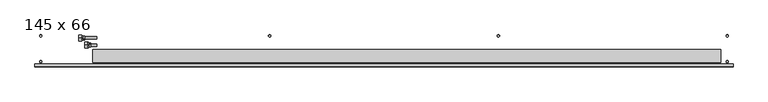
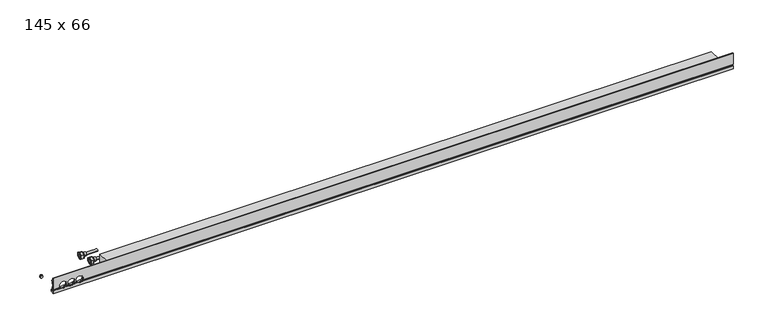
"""IFC4 building model written with IfcOpenShell, lengths in millimetres: proxy geometry, Mohlenhof_Внутрипольный конвектор_QSKM : 145 x 66."""

from ifc_helpers import new_model, si_unit, point, frame, frame_2d, origin, place, context, project, spatial, polyline, circle_curve, ellipse_curve, trimmed, segment, composite_curve, outline, extrude, source, transform, mapped, element, save
from ifc_brep_helpers import plane_surface, cylinder_surface, revolved_surface, advanced_brep


def proxy_145_x_66_77f280cb(model_context):
    return source(origin(), model_context, "Body", "SolidModel", [
        extrude(outline(composite_curve([segment(trimmed(circle_curve(frame_2d((-450.0, -223.5)), 4.5), [point((-454.5, -223.5))], [point((-445.5, -223.5))], False, "CARTESIAN"), True, "CONTINUOUS"), segment(trimmed(circle_curve(frame_2d((-450.0, -223.5)), 4.5), [point((-445.5, -223.5))], [point((-454.5, -223.5))], False, "CARTESIAN"), True, "CONTINUOUS")], self_intersect=False)), frame((0.0, 0.0, -79.0), z_axis=(0.0, 0.0, 1.0), x_axis=(1.0, 0.0, 0.0)), (0.0, 0.0, 1.0), 7.0),
        extrude(outline(composite_curve([segment(trimmed(circle_curve(frame_2d((-450.0, -223.5)), 4.0), [point((-454.0, -223.5))], [point((-446.0, -223.5))], False, "CARTESIAN"), True, "CONTINUOUS"), segment(trimmed(circle_curve(frame_2d((-450.0, -223.5)), 4.0), [point((-446.0, -223.5))], [point((-454.0, -223.5))], False, "CARTESIAN"), True, "CONTINUOUS")], self_intersect=False)), frame((0.0, 0.0, -72.0), z_axis=(0.0, 0.0, 1.0), x_axis=(1.0, 0.0, 0.0)), (0.0, 0.0, 1.0), 1.5),
        extrude(outline(composite_curve([segment(trimmed(circle_curve(frame_2d((450.0, -223.5)), 4.5), [point((445.5, -223.5))], [point((454.5, -223.5))], False, "CARTESIAN"), True, "CONTINUOUS"), segment(trimmed(circle_curve(frame_2d((450.0, -223.5)), 4.5), [point((454.5, -223.5))], [point((445.5, -223.5))], False, "CARTESIAN"), True, "CONTINUOUS")], self_intersect=False)), frame((0.0, 0.0, -79.0), z_axis=(0.0, 0.0, 1.0), x_axis=(1.0, 0.0, 0.0)), (0.0, 0.0, 1.0), 7.0),
        extrude(outline(composite_curve([segment(trimmed(circle_curve(frame_2d((450.0, -223.5)), 4.0), [point((446.0, -223.5))], [point((454.0, -223.5))], False, "CARTESIAN"), True, "CONTINUOUS"), segment(trimmed(circle_curve(frame_2d((450.0, -223.5)), 4.0), [point((454.0, -223.5))], [point((446.0, -223.5))], False, "CARTESIAN"), True, "CONTINUOUS")], self_intersect=False)), frame((0.0, 0.0, -72.0), z_axis=(0.0, 0.0, 1.0), x_axis=(1.0, 0.0, 0.0)), (0.0, 0.0, 1.0), 1.5),
        extrude(outline(composite_curve([segment(trimmed(circle_curve(frame_2d((-450.0, -121.5)), 4.5), [point((-454.5, -121.5))], [point((-445.5, -121.5))], False, "CARTESIAN"), True, "CONTINUOUS"), segment(trimmed(circle_curve(frame_2d((-450.0, -121.5)), 4.5), [point((-445.5, -121.5))], [point((-454.5, -121.5))], False, "CARTESIAN"), True, "CONTINUOUS")], self_intersect=False)), frame((0.0, 0.0, -79.0), z_axis=(0.0, 0.0, 1.0), x_axis=(1.0, 0.0, 0.0)), (0.0, 0.0, 1.0), 7.0),
        extrude(outline(composite_curve([segment(trimmed(circle_curve(frame_2d((-450.0, -121.5)), 4.0), [point((-454.0, -121.5))], [point((-446.0, -121.5))], False, "CARTESIAN"), True, "CONTINUOUS"), segment(trimmed(circle_curve(frame_2d((-450.0, -121.5)), 4.0), [point((-446.0, -121.5))], [point((-454.0, -121.5))], False, "CARTESIAN"), True, "CONTINUOUS")], self_intersect=False)), frame((0.0, 0.0, -72.0), z_axis=(0.0, 0.0, 1.0), x_axis=(1.0, 0.0, 0.0)), (0.0, 0.0, 1.0), 1.5),
        extrude(outline(composite_curve([segment(trimmed(circle_curve(frame_2d((450.0, -121.5)), 4.5), [point((445.5, -121.5))], [point((454.5, -121.5))], False, "CARTESIAN"), True, "CONTINUOUS"), segment(trimmed(circle_curve(frame_2d((450.0, -121.5)), 4.5), [point((454.5, -121.5))], [point((445.5, -121.5))], False, "CARTESIAN"), True, "CONTINUOUS")], self_intersect=False)), frame((0.0, 0.0, -79.0), z_axis=(0.0, 0.0, 1.0), x_axis=(1.0, 0.0, 0.0)), (0.0, 0.0, 1.0), 7.0),
        extrude(outline(composite_curve([segment(trimmed(circle_curve(frame_2d((450.0, -121.5)), 4.0), [point((446.0, -121.5))], [point((454.0, -121.5))], False, "CARTESIAN"), True, "CONTINUOUS"), segment(trimmed(circle_curve(frame_2d((450.0, -121.5)), 4.0), [point((454.0, -121.5))], [point((446.0, -121.5))], False, "CARTESIAN"), True, "CONTINUOUS")], self_intersect=False)), frame((0.0, 0.0, -72.0), z_axis=(0.0, 0.0, 1.0), x_axis=(1.0, 0.0, 0.0)), (0.0, 0.0, 1.0), 1.5),
        advanced_brep(
        [(-1165.0, -158.0, -47.5), (-1165.0, -146.0, -47.5), (-1165.0, -170.0, -47.5), (-1152.5, -165.5, -47.5), (-1152.5, -150.5, -47.5), (-1152.5, -158.0, -47.5), (-1160.0, -165.5, -47.5), (-1160.0, -150.5, -47.5)],
        [
            (0, 1),
            (1, 2, circle_curve(frame((-1165.0, -158.0, -47.5), z_axis=(-1.0, 0.0, 0.0), x_axis=(0.0, 1.0, 0.0)), 12.0)),
            (2, 0),
            (2, 1, circle_curve(frame((-1165.0, -158.0, -47.5), z_axis=(-1.0, 0.0, 0.0), x_axis=(0.0, 1.0, 0.0)), 12.0)),
            (3, 4, circle_curve(frame((-1152.5, -158.0, -47.5), z_axis=(1.0, 0.0, 0.0), x_axis=(0.0, 1.0, 0.0)), 7.5)),
            (4, 5),
            (5, 3),
            (4, 3, circle_curve(frame((-1152.5, -158.0, -47.5), z_axis=(1.0, 0.0, 0.0), x_axis=(0.0, 1.0, 0.0)), 7.5)),
            (6, 7, circle_curve(frame((-1160.0, -158.0, -47.5), z_axis=(1.0, 0.0, 0.0), x_axis=(0.0, 1.0, 0.0)), 7.5)),
            (7, 4),
            (3, 6),
            (7, 6, circle_curve(frame((-1160.0, -158.0, -47.5), z_axis=(1.0, 0.0, 0.0), x_axis=(0.0, 1.0, 0.0)), 7.5)),
            (1, 7),
            (6, 2),
        ],
        [
            plane_surface(frame((-1165.0, -158.0, -47.5), z_axis=(-1.0, 0.0, 0.0), x_axis=(0.0, 1.0, 0.0))),
            plane_surface(frame((-1152.5, -158.0, -47.5), z_axis=(1.0, 0.0, 0.0), x_axis=(0.0, 1.0, 0.0))),
            cylinder_surface(frame((-1165.0, -158.0, -47.5), z_axis=(-1.0, 0.0, 0.0), x_axis=(0.0, 1.0, 0.0)), 7.5),
            revolved_surface(polyline([(-1160.0, -150.5, -47.5), (-1165.0, -146.0, -47.5)]), (-1165.0, -158.0, -47.5), (-1.0, 0.0, 0.0)),
        ],
        [
            (0, [[1, 2, 3]]),
            (0, [[-3, 4, -1]]),
            (1, [[5, 6, 7]]),
            (1, [[8, -7, -6]]),
            (2, [[9, 10, -5, 11]]),
            (2, [[12, -11, -8, -10]]),
            (3, [[-2, 13, -9, 14]]),
            (3, [[-4, -14, -12, -13]]),
        ],
    ),
        extrude(outline(polyline([(-158.0, -33.6435935), (-146.0, -40.5717968), (-146.0, -54.4282032), (-158.0, -61.3564065), (-170.0, -54.4282032), (-170.0, -40.5717968), (-158.0, -33.6435935)]), holes=[composite_curve([segment(trimmed(circle_curve(frame_2d((-158.0, -47.5)), 8.5), [point((-149.5, -47.5))], [point((-166.5, -47.5))], True, "CARTESIAN"), True, "CONTINUOUS"), segment(trimmed(circle_curve(frame_2d((-158.0, -47.5)), 8.5), [point((-166.5, -47.5))], [point((-149.5, -47.5))], True, "CARTESIAN"), True, "CONTINUOUS")], self_intersect=False)]), frame((-1176.0, 0.0, 0.0), z_axis=(1.0, 0.0, 0.0), x_axis=(0.0, 1.0, 0.0)), (0.0, 0.0, 1.0), 11.0),
        advanced_brep(
        [(-1189.0, -130.0, -34.5), (-1189.0, -118.0, -34.5), (-1189.0, -142.0, -34.5), (-1176.5, -137.5, -34.5), (-1176.5, -122.5, -34.5), (-1176.5, -130.0, -34.5), (-1184.0, -137.5, -34.5), (-1184.0, -122.5, -34.5)],
        [
            (0, 1),
            (1, 2, circle_curve(frame((-1189.0, -130.0, -34.5), z_axis=(-1.0, 0.0, 0.0), x_axis=(0.0, 1.0, 0.0)), 12.0)),
            (2, 0),
            (2, 1, circle_curve(frame((-1189.0, -130.0, -34.5), z_axis=(-1.0, 0.0, 0.0), x_axis=(0.0, 1.0, 0.0)), 12.0)),
            (3, 4, circle_curve(frame((-1176.5, -130.0, -34.5), z_axis=(1.0, 0.0, 0.0), x_axis=(0.0, 1.0, 0.0)), 7.5)),
            (4, 5),
            (5, 3),
            (4, 3, circle_curve(frame((-1176.5, -130.0, -34.5), z_axis=(1.0, 0.0, 0.0), x_axis=(0.0, 1.0, 0.0)), 7.5)),
            (6, 7, circle_curve(frame((-1184.0, -130.0, -34.5), z_axis=(1.0, 0.0, 0.0), x_axis=(0.0, 1.0, 0.0)), 7.5)),
            (7, 4),
            (3, 6),
            (7, 6, circle_curve(frame((-1184.0, -130.0, -34.5), z_axis=(1.0, 0.0, 0.0), x_axis=(0.0, 1.0, 0.0)), 7.5)),
            (1, 7),
            (6, 2),
        ],
        [
            plane_surface(frame((-1189.0, -130.0, -34.5), z_axis=(-1.0, 0.0, 0.0), x_axis=(0.0, 1.0, 0.0))),
            plane_surface(frame((-1176.5, -130.0, -34.5), z_axis=(1.0, 0.0, 0.0), x_axis=(0.0, 1.0, 0.0))),
            cylinder_surface(frame((-1189.0, -130.0, -34.5), z_axis=(-1.0, 0.0, 0.0), x_axis=(0.0, 1.0, 0.0)), 7.5),
            revolved_surface(polyline([(-1184.0, -122.5, -34.5), (-1189.0, -118.0, -34.5)]), (-1189.0, -130.0, -34.5), (-1.0, 0.0, 0.0)),
        ],
        [
            (0, [[1, 2, 3]]),
            (0, [[-3, 4, -1]]),
            (1, [[5, 6, 7]]),
            (1, [[8, -7, -6]]),
            (2, [[9, 10, -5, 11]]),
            (2, [[12, -11, -8, -10]]),
            (3, [[-2, 13, -9, 14]]),
            (3, [[-4, -14, -12, -13]]),
        ],
    ),
        extrude(outline(polyline([(-130.0, -20.6435935), (-118.0, -27.5717968), (-118.0, -41.4282032), (-130.0, -48.3564065), (-142.0, -41.4282032), (-142.0, -27.5717968), (-130.0, -20.6435935)]), holes=[composite_curve([segment(trimmed(circle_curve(frame_2d((-130.0, -34.5)), 8.5), [point((-121.5, -34.5))], [point((-138.5, -34.5))], True, "CARTESIAN"), True, "CONTINUOUS"), segment(trimmed(circle_curve(frame_2d((-130.0, -34.5)), 8.5), [point((-138.5, -34.5))], [point((-121.5, -34.5))], True, "CARTESIAN"), True, "CONTINUOUS")], self_intersect=False)]), frame((-1200.0, 0.0, 0.0), z_axis=(1.0, 0.0, 0.0), x_axis=(0.0, 1.0, 0.0)), (0.0, 0.0, 1.0), 11.0),
        extrude(outline(composite_curve([segment(trimmed(circle_curve(frame_2d((-1350.0, -223.5)), 4.5), [point((-1354.5, -223.5))], [point((-1345.5, -223.5))], False, "CARTESIAN"), True, "CONTINUOUS"), segment(trimmed(circle_curve(frame_2d((-1350.0, -223.5)), 4.5), [point((-1345.5, -223.5))], [point((-1354.5, -223.5))], False, "CARTESIAN"), True, "CONTINUOUS")], self_intersect=False)), frame((0.0, 0.0, -79.0), z_axis=(0.0, 0.0, 1.0), x_axis=(1.0, 0.0, 0.0)), (0.0, 0.0, 1.0), 7.0),
        extrude(outline(composite_curve([segment(trimmed(circle_curve(frame_2d((-1350.0, -223.5)), 4.0), [point((-1354.0, -223.5))], [point((-1346.0, -223.5))], False, "CARTESIAN"), True, "CONTINUOUS"), segment(trimmed(circle_curve(frame_2d((-1350.0, -223.5)), 4.0), [point((-1346.0, -223.5))], [point((-1354.0, -223.5))], False, "CARTESIAN"), True, "CONTINUOUS")], self_intersect=False)), frame((0.0, 0.0, -72.0), z_axis=(0.0, 0.0, 1.0), x_axis=(1.0, 0.0, 0.0)), (0.0, 0.0, 1.0), 1.5),
        extrude(outline(composite_curve([segment(trimmed(circle_curve(frame_2d((-1350.0, -121.5)), 4.5), [point((-1354.5, -121.5))], [point((-1345.5, -121.5))], False, "CARTESIAN"), True, "CONTINUOUS"), segment(trimmed(circle_curve(frame_2d((-1350.0, -121.5)), 4.5), [point((-1345.5, -121.5))], [point((-1354.5, -121.5))], False, "CARTESIAN"), True, "CONTINUOUS")], self_intersect=False)), frame((0.0, 0.0, -79.0), z_axis=(0.0, 0.0, 1.0), x_axis=(1.0, 0.0, 0.0)), (0.0, 0.0, 1.0), 7.0),
        extrude(outline(composite_curve([segment(trimmed(circle_curve(frame_2d((-1350.0, -121.5)), 4.0), [point((-1354.0, -121.5))], [point((-1346.0, -121.5))], False, "CARTESIAN"), True, "CONTINUOUS"), segment(trimmed(circle_curve(frame_2d((-1350.0, -121.5)), 4.0), [point((-1346.0, -121.5))], [point((-1354.0, -121.5))], False, "CARTESIAN"), True, "CONTINUOUS")], self_intersect=False)), frame((0.0, 0.0, -72.0), z_axis=(0.0, 0.0, 1.0), x_axis=(1.0, 0.0, 0.0)), (0.0, 0.0, 1.0), 1.5),
        extrude(outline(composite_curve([segment(trimmed(circle_curve(frame_2d((1350.0, -223.5)), 4.5), [point((1345.5, -223.5))], [point((1354.5, -223.5))], False, "CARTESIAN"), True, "CONTINUOUS"), segment(trimmed(circle_curve(frame_2d((1350.0, -223.5)), 4.5), [point((1354.5, -223.5))], [point((1345.5, -223.5))], False, "CARTESIAN"), True, "CONTINUOUS")], self_intersect=False)), frame((0.0, 0.0, -79.0), z_axis=(0.0, 0.0, 1.0), x_axis=(1.0, 0.0, 0.0)), (0.0, 0.0, 1.0), 7.0),
        extrude(outline(composite_curve([segment(trimmed(circle_curve(frame_2d((1350.0, -223.5)), 4.0), [point((1346.0, -223.5))], [point((1354.0, -223.5))], False, "CARTESIAN"), True, "CONTINUOUS"), segment(trimmed(circle_curve(frame_2d((1350.0, -223.5)), 4.0), [point((1354.0, -223.5))], [point((1346.0, -223.5))], False, "CARTESIAN"), True, "CONTINUOUS")], self_intersect=False)), frame((0.0, 0.0, -72.0), z_axis=(0.0, 0.0, 1.0), x_axis=(1.0, 0.0, 0.0)), (0.0, 0.0, 1.0), 1.5),
        extrude(outline(composite_curve([segment(trimmed(circle_curve(frame_2d((1350.0, -121.5)), 4.5), [point((1345.5, -121.5))], [point((1354.5, -121.5))], False, "CARTESIAN"), True, "CONTINUOUS"), segment(trimmed(circle_curve(frame_2d((1350.0, -121.5)), 4.5), [point((1354.5, -121.5))], [point((1345.5, -121.5))], False, "CARTESIAN"), True, "CONTINUOUS")], self_intersect=False)), frame((0.0, 0.0, -79.0), z_axis=(0.0, 0.0, 1.0), x_axis=(1.0, 0.0, 0.0)), (0.0, 0.0, 1.0), 7.0),
        extrude(outline(composite_curve([segment(trimmed(circle_curve(frame_2d((1350.0, -121.5)), 4.0), [point((1346.0, -121.5))], [point((1354.0, -121.5))], False, "CARTESIAN"), True, "CONTINUOUS"), segment(trimmed(circle_curve(frame_2d((1350.0, -121.5)), 4.0), [point((1354.0, -121.5))], [point((1346.0, -121.5))], False, "CARTESIAN"), True, "CONTINUOUS")], self_intersect=False)), frame((0.0, 0.0, -72.0), z_axis=(0.0, 0.0, 1.0), x_axis=(1.0, 0.0, 0.0)), (0.0, 0.0, 1.0), 1.5),
        extrude(outline(polyline([(1325.0, -175.87), (1325.0, -227.18), (-1145.0, -227.18), (-1145.0, -175.87), (1325.0, -175.87)])), frame((0.0, 0.0, -62.5), z_axis=(0.0, 0.0, 1.0), x_axis=(1.0, 0.0, 0.0)), (0.0, 0.0, 1.0), 43.62),
        extrude(outline(composite_curve([segment(trimmed(circle_curve(frame_2d((-158.0, -47.5)), 5.0), [point((-163.0, -47.5))], [point((-153.0, -47.5))], False, "CARTESIAN"), True, "CONTINUOUS"), segment(trimmed(circle_curve(frame_2d((-158.0, -47.5)), 5.0), [point((-153.0, -47.5))], [point((-163.0, -47.5))], False, "CARTESIAN"), True, "CONTINUOUS")], self_intersect=False)), frame((-1176.0, 0.0, 0.0), z_axis=(1.0, 0.0, 0.0), x_axis=(0.0, 1.0, 0.0)), (0.0, 0.0, 1.0), 46.0),
        extrude(outline(composite_curve([segment(trimmed(circle_curve(frame_2d((-130.0, -34.5)), 5.0), [point((-135.0, -34.5))], [point((-125.0, -34.5))], False, "CARTESIAN"), True, "CONTINUOUS"), segment(trimmed(circle_curve(frame_2d((-130.0, -34.5)), 5.0), [point((-125.0, -34.5))], [point((-135.0, -34.5))], False, "CARTESIAN"), True, "CONTINUOUS")], self_intersect=False)), frame((-1200.0, 0.0, 0.0), z_axis=(1.0, 0.0, 0.0), x_axis=(0.0, 1.0, 0.0)), (0.0, 0.0, 1.0), 70.0),
        advanced_brep(
        [(1373.0, -245.0, -48.5473602), (1373.0, -243.5, -49.2468216), (1373.0, -242.5, -49.2468216), (1373.0, -242.5, -46.0008038), (1373.0, -240.0, -46.0008038), (1373.0, -240.0, -56.5008038), (1373.0, -242.5, -56.5008038), (1373.0, -242.5, -53.2468216), (1373.0, -243.5, -53.2468216), (1373.0, -245.0, -53.9462831), (1373.0, -245.0, -66.5), (1373.0, -241.0, -66.5), (1373.0, -241.0, -65.2), (1373.0, -243.0, -65.2), (1373.0, -243.0, -62.5), (1373.0, -232.0, -62.5), (1373.0, -232.0, -54.9172677), (1373.0, -233.4172677, -53.5), (1373.0, -237.0, -53.5), (1373.0, -237.0, -45.91), (1373.0, -239.0, -43.91), (1373.0, -239.0, -39.5), (1373.0, -240.0, -39.5), (1373.0, -240.0, -43.5), (1373.0, -242.4956439, -43.5), (1373.0, -242.4956439, -23.0), (1373.0, -240.0, -23.0), (1373.0, -240.0, -27.0), (1373.0, -239.0, -27.0), (1373.0, -239.0, -17.0), (1373.0, -233.3956439, -17.0), (1373.0, -233.3956439, -15.0), (1373.0, -243.4, -15.0), (1373.0, -243.4, 0.0), (1373.0, -245.0, 0.0), (-1373.0, -245.0, -48.5473602), (-1373.0, -245.0, 0.0), (-1373.0, -243.4, 0.0), (-1373.0, -243.4, -15.0), (-1373.0, -233.3956439, -15.0), (-1373.0, -233.3956439, -17.0), (-1373.0, -239.0, -17.0), (-1373.0, -239.0, -27.0), (-1373.0, -240.0, -27.0), (-1373.0, -240.0, -23.0), (-1373.0, -242.4956439, -23.0), (-1373.0, -242.4956439, -43.5), (-1373.0, -240.0, -43.5), (-1373.0, -240.0, -39.5), (-1373.0, -239.0, -39.5), (-1373.0, -239.0, -43.91), (-1373.0, -237.0, -45.91), (-1373.0, -237.0, -53.5), (-1373.0, -233.4172677, -53.5), (-1373.0, -232.0, -54.9172677), (-1373.0, -232.0, -62.5), (-1373.0, -243.0, -62.5), (-1373.0, -243.0, -65.2), (-1373.0, -241.0, -65.2), (-1373.0, -241.0, -66.5), (-1373.0, -245.0, -66.5), (-1373.0, -245.0, -53.9462831), (-1373.0, -243.5, -53.2468216), (-1373.0, -242.5, -53.2468216), (-1373.0, -242.5, -56.5008038), (-1373.0, -240.0, -56.5008038), (-1373.0, -240.0, -46.0008038), (-1373.0, -242.5, -46.0008038), (-1373.0, -242.5, -49.2468216), (-1373.0, -243.5, -49.2468216), (-1253.7585985, -245.0, -48.5473602), (-1254.155283, -243.5, -49.2468216), (-1345.844717, -243.5, -49.2468216), (-1346.2414015, -245.0, -48.5473602), (-1313.2414015, -245.0, -48.5473602), (-1319.7585985, -245.0, -48.5473602), (-1320.155283, -243.5, -49.2468216), (-1312.844717, -243.5, -49.2468216), (-1280.2414015, -245.0, -48.5473602), (-1286.7585985, -245.0, -48.5473602), (-1287.155283, -243.5, -49.2468216), (-1279.844717, -243.5, -49.2468216), (-1254.155283, -242.5, -49.2468216), (-1345.844717, -242.5, -49.2468216), (-1320.155283, -242.5, -49.2468216), (-1312.844717, -242.5, -49.2468216), (-1287.155283, -242.5, -49.2468216), (-1279.844717, -242.5, -49.2468216), (-1252.6911648, -242.5, -46.0008038), (-1347.3088352, -242.5, -46.0008038), (-1318.6911648, -242.5, -46.0008038), (-1314.3088352, -242.5, -46.0008038), (-1285.6911648, -242.5, -46.0008038), (-1281.3088352, -242.5, -46.0008038), (-1252.6911648, -240.0, -46.0008038), (-1347.3088352, -240.0, -46.0008038), (-1318.6911648, -240.0, -46.0008038), (-1314.3088352, -240.0, -46.0008038), (-1285.6911648, -240.0, -46.0008038), (-1281.3088352, -240.0, -46.0008038), (-1342.328032, -242.5, -53.2468216), (-1323.671968, -242.5, -53.2468216), (-1309.328032, -242.5, -53.2468216), (-1290.671968, -242.5, -53.2468216), (-1276.328032, -242.5, -53.2468216), (-1257.671968, -242.5, -53.2468216), (-1257.671968, -243.5, -53.2468216), (-1342.328032, -243.5, -53.2468216), (-1323.671968, -243.5, -53.2468216), (-1309.328032, -243.5, -53.2468216), (-1290.671968, -243.5, -53.2468216), (-1276.328032, -243.5, -53.2468216), (-1258.6280208, -245.0, -53.9462831), (-1341.3719792, -245.0, -53.9462831), (-1324.6280208, -245.0, -53.9462831), (-1308.3719792, -245.0, -53.9462831), (-1291.6280208, -245.0, -53.9462831), (-1275.3719792, -245.0, -53.9462831), (-1339.7064841, -232.0, -54.9172677), (-1326.2935159, -232.0, -54.9172677), (-1306.7064841, -232.0, -54.9172677), (-1293.2935159, -232.0, -54.9172677), (-1273.7064841, -232.0, -54.9172677), (-1260.2935159, -232.0, -54.9172677), (-1258.0, -233.4172677, -53.5), (-1342.0, -233.4172677, -53.5), (-1324.0, -233.4172677, -53.5), (-1309.0, -233.4172677, -53.5), (-1291.0, -233.4172677, -53.5), (-1276.0, -233.4172677, -53.5), (-1258.0, -237.0, -53.5), (-1342.0, -237.0, -53.5), (-1324.0, -237.0, -53.5), (-1309.0, -237.0, -53.5), (-1291.0, -237.0, -53.5), (-1276.0, -237.0, -53.5), (-1252.6629187, -237.0, -45.91), (-1347.3370813, -237.0, -45.91), (-1318.6629187, -237.0, -45.91), (-1314.3370813, -237.0, -45.91), (-1285.6629187, -237.0, -45.91), (-1281.3370813, -237.0, -45.91), (-1252.1948691, -239.0, -43.91), (-1347.8051309, -239.0, -43.91), (-1318.1948691, -239.0, -43.91), (-1314.8051309, -239.0, -43.91), (-1285.1948691, -239.0, -43.91), (-1281.8051309, -239.0, -43.91), (-1252.0, -239.0, -41.5), (-1252.1339313, -239.0, -39.5), (-1347.8660687, -239.0, -39.5), (-1348.0, -239.0, -41.5), (-1318.0, -239.0, -41.5), (-1318.1339313, -239.0, -39.5), (-1314.8660687, -239.0, -39.5), (-1315.0, -239.0, -41.5), (-1285.0, -239.0, -41.5), (-1285.1339313, -239.0, -39.5), (-1281.8660687, -239.0, -39.5), (-1282.0, -239.0, -41.5), (-1252.1339313, -240.0, -39.5), (-1347.8660687, -240.0, -39.5), (-1318.1339313, -240.0, -39.5), (-1314.8660687, -240.0, -39.5), (-1285.1339313, -240.0, -39.5), (-1281.8660687, -240.0, -39.5), (-1252.0, -240.0, -41.5), (-1252.1339313, -240.0, -43.5), (-1347.8660687, -240.0, -43.5), (-1348.0, -240.0, -41.5), (-1318.0, -240.0, -41.5), (-1318.1339313, -240.0, -43.5), (-1314.8660687, -240.0, -43.5), (-1315.0, -240.0, -41.5), (-1285.0, -240.0, -41.5), (-1285.1339313, -240.0, -43.5), (-1281.8660687, -240.0, -43.5), (-1282.0, -240.0, -41.5), (-1252.1339313, -242.4956439, -43.5), (-1347.8660687, -242.4956439, -43.5), (-1318.1339313, -242.4956439, -43.5), (-1314.8660687, -242.4956439, -43.5), (-1285.1339313, -242.4956439, -43.5), (-1281.8660687, -242.4956439, -43.5), (-1252.0, -242.4956439, -41.5), (-1282.0, -242.4956439, -41.5), (-1285.0, -242.4956439, -41.5), (-1315.0, -242.4956439, -41.5), (-1318.0, -242.4956439, -41.5), (-1348.0, -242.4956439, -41.5), (-1336.8405729, -240.0, -27.0), (-1329.1594271, -240.0, -27.0), (-1303.8405729, -240.0, -27.0), (-1296.1594271, -240.0, -27.0), (-1270.8405729, -240.0, -27.0), (-1263.1594271, -240.0, -27.0), (-1263.1594271, -239.0, -27.0), (-1336.8405729, -239.0, -27.0), (-1329.1594271, -239.0, -27.0), (-1303.8405729, -239.0, -27.0), (-1296.1594271, -239.0, -27.0), (-1270.8405729, -239.0, -27.0), (-1348.0, -245.0, -41.5), (-1318.0, -245.0, -41.5), (-1315.0, -245.0, -41.5), (-1285.0, -245.0, -41.5), (-1282.0, -245.0, -41.5), (-1252.0, -245.0, -41.5)],
        [
            (0, 1),
            (1, 2),
            (2, 3),
            (3, 4),
            (4, 5),
            (5, 6),
            (6, 7),
            (7, 8),
            (8, 9),
            (9, 10),
            (10, 11),
            (11, 12),
            (12, 13),
            (13, 14),
            (14, 15),
            (15, 16),
            (16, 17),
            (17, 18),
            (18, 19),
            (19, 20),
            (20, 21),
            (21, 22),
            (22, 23),
            (23, 24),
            (24, 25),
            (25, 26),
            (26, 27),
            (27, 28),
            (28, 29),
            (29, 30),
            (30, 31),
            (31, 32),
            (32, 33),
            (33, 34),
            (34, 0),
            (35, 36),
            (36, 37),
            (37, 38),
            (38, 39),
            (39, 40),
            (40, 41),
            (41, 42),
            (42, 43),
            (43, 44),
            (44, 45),
            (45, 46),
            (46, 47),
            (47, 48),
            (48, 49),
            (49, 50),
            (50, 51),
            (51, 52),
            (52, 53),
            (53, 54),
            (54, 55),
            (55, 56),
            (56, 57),
            (57, 58),
            (58, 59),
            (59, 60),
            (60, 61),
            (61, 62),
            (62, 63),
            (63, 64),
            (64, 65),
            (65, 66),
            (66, 67),
            (67, 68),
            (68, 69),
            (69, 35),
            (0, 70),
            (70, 71, ellipse_curve(frame((-1267.0, -260.1131126, -41.5), z_axis=(0.0, 0.42261826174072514, 0.9063077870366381), x_axis=(0.0, -0.9063077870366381, 0.42261826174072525)), 35.4930237, 15.0)),
            (71, 1),
            (69, 72),
            (72, 73, ellipse_curve(frame((-1333.0, -260.1131126, -41.5), z_axis=(0.0, 0.42261826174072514, 0.9063077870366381), x_axis=(0.0, -0.9063077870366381, 0.42261826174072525)), 35.4930237, 15.0)),
            (73, 35),
            (74, 75),
            (75, 76, ellipse_curve(frame((-1333.0, -260.1131126, -41.5), z_axis=(0.0, 0.42261826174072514, 0.9063077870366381), x_axis=(0.0, -0.9063077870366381, 0.42261826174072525)), 35.4930237, 15.0)),
            (76, 77),
            (77, 74, ellipse_curve(frame((-1300.0, -260.1131126, -41.5), z_axis=(0.0, 0.42261826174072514, 0.9063077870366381), x_axis=(0.0, -0.9063077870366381, 0.42261826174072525)), 35.4930237, 15.0)),
            (78, 79),
            (79, 80, ellipse_curve(frame((-1300.0, -260.1131126, -41.5), z_axis=(0.0, 0.42261826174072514, 0.9063077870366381), x_axis=(0.0, -0.9063077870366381, 0.42261826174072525)), 35.4930237, 15.0)),
            (80, 81),
            (81, 78, ellipse_curve(frame((-1267.0, -260.1131126, -41.5), z_axis=(0.0, 0.42261826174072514, 0.9063077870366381), x_axis=(0.0, -0.9063077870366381, 0.42261826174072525)), 35.4930237, 15.0)),
            (71, 82),
            (82, 2),
            (68, 83),
            (83, 72),
            (76, 84),
            (84, 85),
            (85, 77),
            (80, 86),
            (86, 87),
            (87, 81),
            (82, 88, circle_curve(frame((-1267.0, -242.5, -41.5), z_axis=(0.0, -1.0, 0.0), x_axis=(1.0, 0.0, 0.0)), 15.0)),
            (88, 3),
            (67, 89),
            (89, 83, circle_curve(frame((-1333.0, -242.5, -41.5), z_axis=(0.0, -1.0, 0.0), x_axis=(1.0, 0.0, 0.0)), 15.0)),
            (84, 90, circle_curve(frame((-1333.0, -242.5, -41.5), z_axis=(0.0, -1.0, 0.0), x_axis=(1.0, 0.0, 0.0)), 15.0)),
            (90, 91),
            (91, 85, circle_curve(frame((-1300.0, -242.5, -41.5), z_axis=(0.0, -1.0, 0.0), x_axis=(1.0, 0.0, 0.0)), 15.0)),
            (86, 92, circle_curve(frame((-1300.0, -242.5, -41.5), z_axis=(0.0, -1.0, 0.0), x_axis=(1.0, 0.0, 0.0)), 15.0)),
            (92, 93),
            (93, 87, circle_curve(frame((-1267.0, -242.5, -41.5), z_axis=(0.0, -1.0, 0.0), x_axis=(1.0, 0.0, 0.0)), 15.0)),
            (88, 94),
            (94, 4),
            (66, 95),
            (95, 89),
            (90, 96),
            (96, 97),
            (97, 91),
            (92, 98),
            (98, 99),
            (99, 93),
            (94, 99, circle_curve(frame((-1267.0, -240.0, -41.5), z_axis=(0.0, 1.0, 0.0), x_axis=(1.0, 0.0, 0.0)), 15.0)),
            (98, 97, circle_curve(frame((-1300.0, -240.0, -41.5), z_axis=(0.0, 1.0, 0.0), x_axis=(1.0, 0.0, 0.0)), 15.0)),
            (96, 95, circle_curve(frame((-1333.0, -240.0, -41.5), z_axis=(0.0, 1.0, 0.0), x_axis=(1.0, 0.0, 0.0)), 15.0)),
            (65, 5),
            (64, 6),
            (63, 100),
            (100, 101, circle_curve(frame((-1333.0, -242.5, -41.5), z_axis=(0.0, -1.0, 0.0), x_axis=(1.0, 0.0, 0.0)), 15.0)),
            (101, 102),
            (102, 103, circle_curve(frame((-1300.0, -242.5, -41.5), z_axis=(0.0, -1.0, 0.0), x_axis=(1.0, 0.0, 0.0)), 15.0)),
            (103, 104),
            (104, 105, circle_curve(frame((-1267.0, -242.5, -41.5), z_axis=(0.0, -1.0, 0.0), x_axis=(1.0, 0.0, 0.0)), 15.0)),
            (105, 7),
            (105, 106),
            (106, 8),
            (62, 107),
            (107, 100),
            (101, 108),
            (108, 109),
            (109, 102),
            (103, 110),
            (110, 111),
            (111, 104),
            (106, 112, ellipse_curve(frame((-1267.0, -218.3088597, -41.5), z_axis=(0.0, 0.42261826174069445, -0.9063077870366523), x_axis=(0.0, -0.9063077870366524, -0.42261826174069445)), 35.4930237, 15.0)),
            (112, 9),
            (61, 113),
            (113, 107, ellipse_curve(frame((-1333.0, -218.3088597, -41.5), z_axis=(0.0, 0.42261826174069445, -0.9063077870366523), x_axis=(0.0, -0.9063077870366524, -0.42261826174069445)), 35.4930237, 15.0)),
            (108, 114, ellipse_curve(frame((-1333.0, -218.3088597, -41.5), z_axis=(0.0, 0.42261826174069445, -0.9063077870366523), x_axis=(0.0, -0.9063077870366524, -0.42261826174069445)), 35.4930237, 15.0)),
            (114, 115),
            (115, 109, ellipse_curve(frame((-1300.0, -218.3088597, -41.5), z_axis=(0.0, 0.42261826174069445, -0.9063077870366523), x_axis=(0.0, -0.9063077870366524, -0.42261826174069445)), 35.4930237, 15.0)),
            (110, 116, ellipse_curve(frame((-1300.0, -218.3088597, -41.5), z_axis=(0.0, 0.42261826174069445, -0.9063077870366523), x_axis=(0.0, -0.9063077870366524, -0.42261826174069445)), 35.4930237, 15.0)),
            (116, 117),
            (117, 111, ellipse_curve(frame((-1267.0, -218.3088597, -41.5), z_axis=(0.0, 0.42261826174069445, -0.9063077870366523), x_axis=(0.0, -0.9063077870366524, -0.42261826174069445)), 35.4930237, 15.0)),
            (112, 117, circle_curve(frame((-1267.0, -245.0, -41.5), z_axis=(0.0, 1.0, 0.0), x_axis=(1.0, 0.0, 0.0)), 15.0)),
            (116, 115, circle_curve(frame((-1300.0, -245.0, -41.5), z_axis=(0.0, 1.0, 0.0), x_axis=(1.0, 0.0, 0.0)), 15.0)),
            (114, 113, circle_curve(frame((-1333.0, -245.0, -41.5), z_axis=(0.0, 1.0, 0.0), x_axis=(1.0, 0.0, 0.0)), 15.0)),
            (60, 10),
            (59, 11),
            (58, 12),
            (57, 13),
            (56, 14),
            (55, 15),
            (54, 118),
            (118, 119, circle_curve(frame((-1333.0, -232.0, -41.5), z_axis=(0.0, -1.0, 0.0), x_axis=(1.0, 0.0, 0.0)), 15.0)),
            (119, 120),
            (120, 121, circle_curve(frame((-1300.0, -232.0, -41.5), z_axis=(0.0, -1.0, 0.0), x_axis=(1.0, 0.0, 0.0)), 15.0)),
            (121, 122),
            (122, 123, circle_curve(frame((-1267.0, -232.0, -41.5), z_axis=(0.0, -1.0, 0.0), x_axis=(1.0, 0.0, 0.0)), 15.0)),
            (123, 16),
            (123, 124, ellipse_curve(frame((-1267.0, -245.4172677, -41.5), z_axis=(0.0, -0.7071067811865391, -0.707106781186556), x_axis=(0.0, -0.7071067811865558, 0.7071067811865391)), 21.2132034, 15.0)),
            (124, 17),
            (53, 125),
            (125, 118, ellipse_curve(frame((-1333.0, -245.4172677, -41.5), z_axis=(0.0, -0.7071067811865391, -0.707106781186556), x_axis=(0.0, -0.7071067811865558, 0.7071067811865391)), 21.2132034, 15.0)),
            (119, 126, ellipse_curve(frame((-1333.0, -245.4172677, -41.5), z_axis=(0.0, -0.7071067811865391, -0.707106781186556), x_axis=(0.0, -0.7071067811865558, 0.7071067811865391)), 21.2132034, 15.0)),
            (126, 127),
            (127, 120, ellipse_curve(frame((-1300.0, -245.4172677, -41.5), z_axis=(0.0, -0.7071067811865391, -0.707106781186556), x_axis=(0.0, -0.7071067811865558, 0.7071067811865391)), 21.2132034, 15.0)),
            (121, 128, ellipse_curve(frame((-1300.0, -245.4172677, -41.5), z_axis=(0.0, -0.7071067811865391, -0.707106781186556), x_axis=(0.0, -0.7071067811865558, 0.7071067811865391)), 21.2132034, 15.0)),
            (128, 129),
            (129, 122, ellipse_curve(frame((-1267.0, -245.4172677, -41.5), z_axis=(0.0, -0.7071067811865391, -0.707106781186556), x_axis=(0.0, -0.7071067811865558, 0.7071067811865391)), 21.2132034, 15.0)),
            (124, 130),
            (130, 18),
            (52, 131),
            (131, 125),
            (126, 132),
            (132, 133),
            (133, 127),
            (128, 134),
            (134, 135),
            (135, 129),
            (130, 136, circle_curve(frame((-1267.0, -237.0, -41.5), z_axis=(0.0, -1.0, 0.0), x_axis=(1.0, 0.0, 0.0)), 15.0)),
            (136, 19),
            (51, 137),
            (137, 131, circle_curve(frame((-1333.0, -237.0, -41.5), z_axis=(0.0, -1.0, 0.0), x_axis=(1.0, 0.0, 0.0)), 15.0)),
            (132, 138, circle_curve(frame((-1333.0, -237.0, -41.5), z_axis=(0.0, -1.0, 0.0), x_axis=(1.0, 0.0, 0.0)), 15.0)),
            (138, 139),
            (139, 133, circle_curve(frame((-1300.0, -237.0, -41.5), z_axis=(0.0, -1.0, 0.0), x_axis=(1.0, 0.0, 0.0)), 15.0)),
            (134, 140, circle_curve(frame((-1300.0, -237.0, -41.5), z_axis=(0.0, -1.0, 0.0), x_axis=(1.0, 0.0, 0.0)), 15.0)),
            (140, 141),
            (141, 135, circle_curve(frame((-1267.0, -237.0, -41.5), z_axis=(0.0, -1.0, 0.0), x_axis=(1.0, 0.0, 0.0)), 15.0)),
            (136, 142, ellipse_curve(frame((-1267.0, -241.41, -41.5), z_axis=(0.0, -0.7071067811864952, -0.7071067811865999), x_axis=(0.0, -0.7071067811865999, 0.7071067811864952)), 21.2132034, 15.0)),
            (142, 20),
            (50, 143),
            (143, 137, ellipse_curve(frame((-1333.0, -241.41, -41.5), z_axis=(0.0, -0.7071067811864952, -0.7071067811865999), x_axis=(0.0, -0.7071067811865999, 0.7071067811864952)), 21.2132034, 15.0)),
            (138, 144, ellipse_curve(frame((-1333.0, -241.41, -41.5), z_axis=(0.0, -0.7071067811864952, -0.7071067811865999), x_axis=(0.0, -0.7071067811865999, 0.7071067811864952)), 21.2132034, 15.0)),
            (144, 145),
            (145, 139, ellipse_curve(frame((-1300.0, -241.41, -41.5), z_axis=(0.0, -0.7071067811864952, -0.7071067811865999), x_axis=(0.0, -0.7071067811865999, 0.7071067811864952)), 21.2132034, 15.0)),
            (140, 146, ellipse_curve(frame((-1300.0, -241.41, -41.5), z_axis=(0.0, -0.7071067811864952, -0.7071067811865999), x_axis=(0.0, -0.7071067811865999, 0.7071067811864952)), 21.2132034, 15.0)),
            (146, 147),
            (147, 141, ellipse_curve(frame((-1267.0, -241.41, -41.5), z_axis=(0.0, -0.7071067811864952, -0.7071067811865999), x_axis=(0.0, -0.7071067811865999, 0.7071067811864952)), 21.2132034, 15.0)),
            (142, 148, circle_curve(frame((-1267.0, -239.0, -41.5), z_axis=(0.0, -1.0, 0.0), x_axis=(1.0, 0.0, 0.0)), 15.0)),
            (148, 149, circle_curve(frame((-1267.0, -239.0, -41.5), z_axis=(0.0, -1.0, 0.0), x_axis=(1.0, 0.0, 0.0)), 15.0)),
            (149, 21),
            (49, 150),
            (150, 151, circle_curve(frame((-1333.0, -239.0, -41.5), z_axis=(0.0, -1.0, 0.0), x_axis=(1.0, 0.0, 0.0)), 15.0)),
            (151, 143, circle_curve(frame((-1333.0, -239.0, -41.5), z_axis=(0.0, -1.0, 0.0), x_axis=(1.0, 0.0, 0.0)), 15.0)),
            (144, 152, circle_curve(frame((-1333.0, -239.0, -41.5), z_axis=(0.0, -1.0, 0.0), x_axis=(1.0, 0.0, 0.0)), 15.0)),
            (152, 153, circle_curve(frame((-1333.0, -239.0, -41.5), z_axis=(0.0, -1.0, 0.0), x_axis=(1.0, 0.0, 0.0)), 15.0)),
            (153, 154),
            (154, 155, circle_curve(frame((-1300.0, -239.0, -41.5), z_axis=(0.0, -1.0, 0.0), x_axis=(1.0, 0.0, 0.0)), 15.0)),
            (155, 145, circle_curve(frame((-1300.0, -239.0, -41.5), z_axis=(0.0, -1.0, 0.0), x_axis=(1.0, 0.0, 0.0)), 15.0)),
            (146, 156, circle_curve(frame((-1300.0, -239.0, -41.5), z_axis=(0.0, -1.0, 0.0), x_axis=(1.0, 0.0, 0.0)), 15.0)),
            (156, 157, circle_curve(frame((-1300.0, -239.0, -41.5), z_axis=(0.0, -1.0, 0.0), x_axis=(1.0, 0.0, 0.0)), 15.0)),
            (157, 158),
            (158, 159, circle_curve(frame((-1267.0, -239.0, -41.5), z_axis=(0.0, -1.0, 0.0), x_axis=(1.0, 0.0, 0.0)), 15.0)),
            (159, 147, circle_curve(frame((-1267.0, -239.0, -41.5), z_axis=(0.0, -1.0, 0.0), x_axis=(1.0, 0.0, 0.0)), 15.0)),
            (149, 160),
            (160, 22),
            (48, 161),
            (161, 150),
            (153, 162),
            (162, 163),
            (163, 154),
            (157, 164),
            (164, 165),
            (165, 158),
            (160, 166, circle_curve(frame((-1267.0, -240.0, -41.5), z_axis=(0.0, 1.0, 0.0), x_axis=(1.0, 0.0, 0.0)), 15.0)),
            (166, 167, circle_curve(frame((-1267.0, -240.0, -41.5), z_axis=(0.0, 1.0, 0.0), x_axis=(1.0, 0.0, 0.0)), 15.0)),
            (167, 23),
            (47, 168),
            (168, 169, circle_curve(frame((-1333.0, -240.0, -41.5), z_axis=(0.0, 1.0, 0.0), x_axis=(1.0, 0.0, 0.0)), 15.0)),
            (169, 161, circle_curve(frame((-1333.0, -240.0, -41.5), z_axis=(0.0, 1.0, 0.0), x_axis=(1.0, 0.0, 0.0)), 15.0)),
            (162, 170, circle_curve(frame((-1333.0, -240.0, -41.5), z_axis=(0.0, 1.0, 0.0), x_axis=(1.0, 0.0, 0.0)), 15.0)),
            (170, 171, circle_curve(frame((-1333.0, -240.0, -41.5), z_axis=(0.0, 1.0, 0.0), x_axis=(1.0, 0.0, 0.0)), 15.0)),
            (171, 172),
            (172, 173, circle_curve(frame((-1300.0, -240.0, -41.5), z_axis=(0.0, 1.0, 0.0), x_axis=(1.0, 0.0, 0.0)), 15.0)),
            (173, 163, circle_curve(frame((-1300.0, -240.0, -41.5), z_axis=(0.0, 1.0, 0.0), x_axis=(1.0, 0.0, 0.0)), 15.0)),
            (164, 174, circle_curve(frame((-1300.0, -240.0, -41.5), z_axis=(0.0, 1.0, 0.0), x_axis=(1.0, 0.0, 0.0)), 15.0)),
            (174, 175, circle_curve(frame((-1300.0, -240.0, -41.5), z_axis=(0.0, 1.0, 0.0), x_axis=(1.0, 0.0, 0.0)), 15.0)),
            (175, 176),
            (176, 177, circle_curve(frame((-1267.0, -240.0, -41.5), z_axis=(0.0, 1.0, 0.0), x_axis=(1.0, 0.0, 0.0)), 15.0)),
            (177, 165, circle_curve(frame((-1267.0, -240.0, -41.5), z_axis=(0.0, 1.0, 0.0), x_axis=(1.0, 0.0, 0.0)), 15.0)),
            (167, 178),
            (178, 24),
            (46, 179),
            (179, 168),
            (171, 180),
            (180, 181),
            (181, 172),
            (175, 182),
            (182, 183),
            (183, 176),
            (178, 184, circle_curve(frame((-1267.0, -242.4956439, -41.5), z_axis=(0.0, -1.0, 0.0), x_axis=(1.0, 0.0, 0.0)), 15.0)),
            (184, 185, circle_curve(frame((-1267.0, -242.4956439, -41.5), z_axis=(0.0, -1.0, 0.0), x_axis=(1.0, 0.0, 0.0)), 15.0)),
            (185, 183, circle_curve(frame((-1267.0, -242.4956439, -41.5), z_axis=(0.0, -1.0, 0.0), x_axis=(1.0, 0.0, 0.0)), 15.0)),
            (182, 186, circle_curve(frame((-1300.0, -242.4956439, -41.5), z_axis=(0.0, -1.0, 0.0), x_axis=(1.0, 0.0, 0.0)), 15.0)),
            (186, 187, circle_curve(frame((-1300.0, -242.4956439, -41.5), z_axis=(0.0, -1.0, 0.0), x_axis=(1.0, 0.0, 0.0)), 15.0)),
            (187, 181, circle_curve(frame((-1300.0, -242.4956439, -41.5), z_axis=(0.0, -1.0, 0.0), x_axis=(1.0, 0.0, 0.0)), 15.0)),
            (180, 188, circle_curve(frame((-1333.0, -242.4956439, -41.5), z_axis=(0.0, -1.0, 0.0), x_axis=(1.0, 0.0, 0.0)), 15.0)),
            (188, 189, circle_curve(frame((-1333.0, -242.4956439, -41.5), z_axis=(0.0, -1.0, 0.0), x_axis=(1.0, 0.0, 0.0)), 15.0)),
            (189, 179, circle_curve(frame((-1333.0, -242.4956439, -41.5), z_axis=(0.0, -1.0, 0.0), x_axis=(1.0, 0.0, 0.0)), 15.0)),
            (45, 25),
            (44, 26),
            (43, 190),
            (190, 191, circle_curve(frame((-1333.0, -240.0, -41.5), z_axis=(0.0, 1.0, 0.0), x_axis=(1.0, 0.0, 0.0)), 15.0)),
            (191, 192),
            (192, 193, circle_curve(frame((-1300.0, -240.0, -41.5), z_axis=(0.0, 1.0, 0.0), x_axis=(1.0, 0.0, 0.0)), 15.0)),
            (193, 194),
            (194, 195, circle_curve(frame((-1267.0, -240.0, -41.5), z_axis=(0.0, 1.0, 0.0), x_axis=(1.0, 0.0, 0.0)), 15.0)),
            (195, 27),
            (195, 196),
            (196, 28),
            (42, 197),
            (197, 190),
            (191, 198),
            (198, 199),
            (199, 192),
            (193, 200),
            (200, 201),
            (201, 194),
            (196, 201, circle_curve(frame((-1267.0, -239.0, -41.5), z_axis=(0.0, -1.0, 0.0), x_axis=(1.0, 0.0, 0.0)), 15.0)),
            (200, 199, circle_curve(frame((-1300.0, -239.0, -41.5), z_axis=(0.0, -1.0, 0.0), x_axis=(1.0, 0.0, 0.0)), 15.0)),
            (198, 197, circle_curve(frame((-1333.0, -239.0, -41.5), z_axis=(0.0, -1.0, 0.0), x_axis=(1.0, 0.0, 0.0)), 15.0)),
            (41, 29),
            (40, 30),
            (39, 31),
            (38, 32),
            (37, 33),
            (36, 34),
            (73, 202, circle_curve(frame((-1333.0, -245.0, -41.5), z_axis=(0.0, 1.0, 0.0), x_axis=(1.0, 0.0, 0.0)), 15.0)),
            (202, 203, circle_curve(frame((-1333.0, -245.0, -41.5), z_axis=(0.0, 1.0, 0.0), x_axis=(1.0, 0.0, 0.0)), 15.0)),
            (203, 75, circle_curve(frame((-1333.0, -245.0, -41.5), z_axis=(0.0, 1.0, 0.0), x_axis=(1.0, 0.0, 0.0)), 15.0)),
            (74, 204, circle_curve(frame((-1300.0, -245.0, -41.5), z_axis=(0.0, 1.0, 0.0), x_axis=(1.0, 0.0, 0.0)), 15.0)),
            (204, 205, circle_curve(frame((-1300.0, -245.0, -41.5), z_axis=(0.0, 1.0, 0.0), x_axis=(1.0, 0.0, 0.0)), 15.0)),
            (205, 79, circle_curve(frame((-1300.0, -245.0, -41.5), z_axis=(0.0, 1.0, 0.0), x_axis=(1.0, 0.0, 0.0)), 15.0)),
            (78, 206, circle_curve(frame((-1267.0, -245.0, -41.5), z_axis=(0.0, 1.0, 0.0), x_axis=(1.0, 0.0, 0.0)), 15.0)),
            (206, 207, circle_curve(frame((-1267.0, -245.0, -41.5), z_axis=(0.0, 1.0, 0.0), x_axis=(1.0, 0.0, 0.0)), 15.0)),
            (207, 70, circle_curve(frame((-1267.0, -245.0, -41.5), z_axis=(0.0, 1.0, 0.0), x_axis=(1.0, 0.0, 0.0)), 15.0)),
            (151, 169),
            (189, 202),
            (203, 188),
            (170, 152),
            (155, 173),
            (187, 204),
            (205, 186),
            (174, 156),
            (159, 177),
            (185, 206),
            (207, 184),
            (166, 148),
        ],
        [
            plane_surface(frame((1373.0, -243.0, -62.5), z_axis=(1.0, 0.0, 0.0), x_axis=(0.0, 0.0, 1.0))),
            plane_surface(frame((-1373.0, -243.0, -62.5), z_axis=(-1.0, 0.0, 0.0), x_axis=(0.0, 0.0, 1.0))),
            plane_surface(frame((1373.0, -245.0, -48.5473602), z_axis=(0.0, -0.42261826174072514, -0.9063077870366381), x_axis=(-1.0, 0.0, 0.0))),
            plane_surface(frame((1373.0, -243.5, -49.2468216), z_axis=(0.0, 0.0, -1.0), x_axis=(-1.0, 0.0, 0.0))),
            plane_surface(frame((1373.0, -242.5, -49.2468216), z_axis=(0.0, 1.0, 0.0), x_axis=(-1.0, 0.0, 0.0))),
            plane_surface(frame((1373.0, -242.5, -46.0008038), z_axis=(0.0, 0.0, -1.0), x_axis=(-1.0, 0.0, 0.0))),
            plane_surface(frame((1373.0, -240.0, -46.0008038), z_axis=(0.0, -1.0, 0.0), x_axis=(-1.0, 0.0, 0.0))),
            plane_surface(frame((1373.0, -240.0, -56.5008038), z_axis=(0.0, 0.0, 1.0), x_axis=(-1.0, 0.0, 0.0))),
            plane_surface(frame((1373.0, -242.5, -56.5008038), z_axis=(0.0, 1.0, 0.0), x_axis=(-1.0, 0.0, 0.0))),
            plane_surface(frame((1373.0, -242.5, -53.2468216), z_axis=(0.0, 0.0, 1.0), x_axis=(-1.0, 0.0, 0.0))),
            plane_surface(frame((1373.0, -243.5, -53.2468216), z_axis=(0.0, -0.42261826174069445, 0.9063077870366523), x_axis=(-1.0, 0.0, 0.0))),
            plane_surface(frame((1373.0, -245.0, -53.9462831), z_axis=(0.0, -1.0, 0.0), x_axis=(-1.0, 0.0, 0.0))),
            plane_surface(frame((1373.0, -245.0, -66.5), z_axis=(0.0, 0.0, -1.0), x_axis=(-1.0, 0.0, 0.0))),
            plane_surface(frame((1373.0, -241.0, -66.5), z_axis=(0.0, 1.0, 0.0), x_axis=(-1.0, 0.0, 0.0))),
            plane_surface(frame((1373.0, -241.0, -65.2), z_axis=(0.0, 0.0, 1.0), x_axis=(-1.0, 0.0, 0.0))),
            plane_surface(frame((1373.0, -243.0, -65.2), z_axis=(0.0, 1.0, 0.0), x_axis=(-1.0, 0.0, 0.0))),
            plane_surface(frame((1373.0, -243.0, -62.5), z_axis=(0.0, 0.0, -1.0), x_axis=(-1.0, 0.0, 0.0))),
            plane_surface(frame((1373.0, -232.0, -62.5), z_axis=(0.0, 1.0, 0.0), x_axis=(-1.0, 0.0, 0.0))),
            plane_surface(frame((1373.0, -232.0, -54.9172677), z_axis=(0.0, 0.7071067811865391, 0.707106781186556), x_axis=(-1.0, 0.0, 0.0))),
            plane_surface(frame((1373.0, -233.4172677, -53.5), z_axis=(0.0, 0.0, 1.0), x_axis=(-1.0, 0.0, 0.0))),
            plane_surface(frame((1373.0, -237.0, -53.5), z_axis=(0.0, 1.0, 0.0), x_axis=(-1.0, 0.0, 0.0))),
            plane_surface(frame((1373.0, -237.0, -45.91), z_axis=(0.0, 0.7071067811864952, 0.7071067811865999), x_axis=(-1.0, 0.0, 0.0))),
            plane_surface(frame((1373.0, -239.0, -43.91), z_axis=(0.0, 1.0, 0.0), x_axis=(-1.0, 0.0, 0.0))),
            plane_surface(frame((1373.0, -239.0, -39.5), z_axis=(0.0, 0.0, 1.0), x_axis=(-1.0, 0.0, 0.0))),
            plane_surface(frame((1373.0, -240.0, -39.5), z_axis=(0.0, -1.0, 0.0), x_axis=(-1.0, 0.0, 0.0))),
            plane_surface(frame((1373.0, -240.0, -43.5), z_axis=(0.0, 0.0, 1.0), x_axis=(-1.0, 0.0, 0.0))),
            plane_surface(frame((1373.0, -242.4956439, -43.5), z_axis=(0.0, 1.0, 0.0), x_axis=(-1.0, 0.0, 0.0))),
            plane_surface(frame((1373.0, -242.4956439, -23.0), z_axis=(0.0, 0.0, -1.0), x_axis=(-1.0, 0.0, 0.0))),
            plane_surface(frame((1373.0, -240.0, -23.0), z_axis=(0.0, -1.0, 0.0), x_axis=(-1.0, 0.0, 0.0))),
            plane_surface(frame((1373.0, -240.0, -27.0), z_axis=(0.0, 0.0, -1.0), x_axis=(-1.0, 0.0, 0.0))),
            plane_surface(frame((1373.0, -239.0, -27.0), z_axis=(0.0, 1.0, 0.0), x_axis=(-1.0, 0.0, 0.0))),
            plane_surface(frame((1373.0, -239.0, -17.0), z_axis=(0.0, 0.0, -1.0), x_axis=(-1.0, 0.0, 0.0))),
            plane_surface(frame((1373.0, -233.3956439, -17.0), z_axis=(0.0, 1.0, 0.0), x_axis=(-1.0, 0.0, 0.0))),
            plane_surface(frame((1373.0, -233.3956439, -15.0), z_axis=(0.0, 0.0, 1.0), x_axis=(-1.0, 0.0, 0.0))),
            plane_surface(frame((1373.0, -243.4, -15.0), z_axis=(0.0, 1.0, 0.0), x_axis=(-1.0, 0.0, 0.0))),
            plane_surface(frame((1373.0, -243.4, 0.0), z_axis=(0.0, 0.0, 1.0), x_axis=(-1.0, 0.0, 0.0))),
            plane_surface(frame((1373.0, -245.0, 0.0), z_axis=(0.0, -1.0, 0.0), x_axis=(-1.0, 0.0, 0.0))),
            revolved_surface(polyline([(-1318.0, -250.47646346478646, -41.5), (-1318.0, -186.14125593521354, -41.5)]), (-1333.0, -213.0, -41.5), (0.0, -1.0, 0.0)),
            revolved_surface(polyline([(-1318.0, -292.280716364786, -41.5), (-1318.0, -226.41000002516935, -41.5)]), (-1333.0, -213.0, -41.5), (0.0, -1.0, 0.0)),
            revolved_surface(polyline([(-1318.0, -240.0, -41.5), (-1318.0, -239.0, -41.5)]), (-1333.0, -213.0, -41.5), (0.0, -1.0, 0.0)),
            revolved_surface(polyline([(-1318.0, -245.0, -41.5), (-1318.0, -242.4956439, -41.5)]), (-1333.0, -213.0, -41.5), (0.0, -1.0, 0.0)),
            revolved_surface(polyline([(-1285.0, -250.47646346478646, -41.5), (-1285.0, -186.14125593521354, -41.5)]), (-1300.0, 0.0, -41.5), (0.0, -1.0, 0.0)),
            revolved_surface(polyline([(-1285.0, -292.280716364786, -41.5), (-1285.0, -226.41000002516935, -41.5)]), (-1300.0, 0.0, -41.5), (0.0, -1.0, 0.0)),
            revolved_surface(polyline([(-1285.0, -240.0, -41.5), (-1285.0, -239.0, -41.5)]), (-1300.0, 0.0, -41.5), (0.0, -1.0, 0.0)),
            revolved_surface(polyline([(-1285.0, -245.0, -41.5), (-1285.0, -242.4956439, -41.5)]), (-1300.0, 0.0, -41.5), (0.0, -1.0, 0.0)),
            revolved_surface(polyline([(-1252.0, -250.47646346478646, -41.5), (-1252.0, -186.14125593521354, -41.5)]), (-1267.0, 0.0, -41.5), (0.0, -1.0, 0.0)),
            revolved_surface(polyline([(-1252.0, -292.280716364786, -41.5), (-1252.0, -226.41000002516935, -41.5)]), (-1267.0, 0.0, -41.5), (0.0, -1.0, 0.0)),
            revolved_surface(polyline([(-1252.0, -240.0, -41.5), (-1252.0, -239.0, -41.5)]), (-1267.0, 0.0, -41.5), (0.0, -1.0, 0.0)),
            revolved_surface(polyline([(-1252.0, -245.0, -41.5), (-1252.0, -242.4956439, -41.5)]), (-1267.0, 0.0, -41.5), (0.0, -1.0, 0.0)),
        ],
        [
            (0, [[1, 2, 3, 4, 5, 6, 7, 8, 9, 10, 11, 12, 13, 14, 15, 16, 17, 18, 19, 20, 21, 22, 23, 24, 25, 26, 27, 28, 29, 30, 31, 32, 33, 34, 35]]),
            (1, [[36, 37, 38, 39, 40, 41, 42, 43, 44, 45, 46, 47, 48, 49, 50, 51, 52, 53, 54, 55, 56, 57, 58, 59, 60, 61, 62, 63, 64, 65, 66, 67, 68, 69, 70]]),
            (2, [[-1, 71, 72, 73]]),
            (2, [[-70, 74, 75, 76]]),
            (2, [[77, 78, 79, 80]]),
            (2, [[81, 82, 83, 84]]),
            (3, [[-2, -73, 85, 86]]),
            (3, [[-69, 87, 88, -74]]),
            (3, [[-79, 89, 90, 91]]),
            (3, [[-83, 92, 93, 94]]),
            (4, [[-3, -86, 95, 96]]),
            (4, [[-68, 97, 98, -87]]),
            (4, [[-90, 99, 100, 101]]),
            (4, [[-93, 102, 103, 104]]),
            (5, [[-4, -96, 105, 106]]),
            (5, [[-67, 107, 108, -97]]),
            (5, [[-100, 109, 110, 111]]),
            (5, [[-103, 112, 113, 114]]),
            (6, [[-5, -106, 115, -113, 116, -110, 117, -107, -66, 118]]),
            (7, [[-6, -118, -65, 119]]),
            (8, [[-7, -119, -64, 120, 121, 122, 123, 124, 125, 126]]),
            (9, [[-8, -126, 127, 128]]),
            (9, [[-63, 129, 130, -120]]),
            (9, [[-122, 131, 132, 133]]),
            (9, [[-124, 134, 135, 136]]),
            (10, [[-9, -128, 137, 138]]),
            (10, [[-62, 139, 140, -129]]),
            (10, [[-132, 141, 142, 143]]),
            (10, [[-135, 144, 145, 146]]),
            (11, [[-10, -138, 147, -145, 148, -142, 149, -139, -61, 150]]),
            (12, [[-11, -150, -60, 151]]),
            (13, [[-12, -151, -59, 152]]),
            (14, [[-13, -152, -58, 153]]),
            (15, [[-14, -153, -57, 154]]),
            (16, [[-15, -154, -56, 155]]),
            (17, [[-16, -155, -55, 156, 157, 158, 159, 160, 161, 162]]),
            (18, [[-17, -162, 163, 164]]),
            (18, [[-54, 165, 166, -156]]),
            (18, [[-158, 167, 168, 169]]),
            (18, [[-160, 170, 171, 172]]),
            (19, [[-18, -164, 173, 174]]),
            (19, [[-53, 175, 176, -165]]),
            (19, [[-168, 177, 178, 179]]),
            (19, [[-171, 180, 181, 182]]),
            (20, [[-19, -174, 183, 184]]),
            (20, [[-52, 185, 186, -175]]),
            (20, [[-178, 187, 188, 189]]),
            (20, [[-181, 190, 191, 192]]),
            (21, [[-20, -184, 193, 194]]),
            (21, [[-51, 195, 196, -185]]),
            (21, [[-188, 197, 198, 199]]),
            (21, [[-191, 200, 201, 202]]),
            (22, [[-21, -194, 203, 204, 205]]),
            (22, [[-50, 206, 207, 208, -195]]),
            (22, [[-198, 209, 210, 211, 212, 213]]),
            (22, [[-201, 214, 215, 216, 217, 218]]),
            (23, [[-22, -205, 219, 220]]),
            (23, [[-49, 221, 222, -206]]),
            (23, [[-211, 223, 224, 225]]),
            (23, [[-216, 226, 227, 228]]),
            (24, [[-23, -220, 229, 230, 231]]),
            (24, [[-48, 232, 233, 234, -221]]),
            (24, [[-224, 235, 236, 237, 238, 239]]),
            (24, [[-227, 240, 241, 242, 243, 244]]),
            (25, [[-24, -231, 245, 246]]),
            (25, [[-47, 247, 248, -232]]),
            (25, [[-237, 249, 250, 251]]),
            (25, [[-242, 252, 253, 254]]),
            (26, [[-25, -246, 255, 256, 257, -253, 258, 259, 260, -250, 261, 262, 263, -247, -46, 264]]),
            (27, [[-26, -264, -45, 265]]),
            (28, [[-27, -265, -44, 266, 267, 268, 269, 270, 271, 272]]),
            (29, [[-28, -272, 273, 274]]),
            (29, [[-43, 275, 276, -266]]),
            (29, [[-268, 277, 278, 279]]),
            (29, [[-270, 280, 281, 282]]),
            (30, [[-29, -274, 283, -281, 284, -278, 285, -275, -42, 286]]),
            (31, [[-30, -286, -41, 287]]),
            (32, [[-31, -287, -40, 288]]),
            (33, [[-32, -288, -39, 289]]),
            (34, [[-33, -289, -38, 290]]),
            (35, [[-34, -290, -37, 291]]),
            (36, [[-35, -291, -36, -76, 292, 293, 294, -77, 295, 296, 297, -81, 298, 299, 300, -71]]),
            (37, [[-121, -130, -140, -149, -141, -131]]),
            (38, [[301, -233, -248, -263, 302, -292, -75, -88, -98, -108, -117, -109, -99, -89, -78, -294, 303, -261, -249, -236, 304, -209, -197, -187, -177, -167, -157, -166, -176, -186, -196, -208]]),
            (39, [[-267, -276, -285, -277]]),
            (39, [[-301, -207, -222, -234]]),
            (40, [[-302, -262, -303, -293]]),
            (39, [[-304, -235, -223, -210]]),
            (41, [[-123, -133, -143, -148, -144, -134]]),
            (42, [[305, -238, -251, -260, 306, -295, -80, -91, -101, -111, -116, -112, -102, -92, -82, -297, 307, -258, -252, -241, 308, -214, -200, -190, -180, -170, -159, -169, -179, -189, -199, -213]]),
            (43, [[-269, -279, -284, -280]]),
            (43, [[-305, -212, -225, -239]]),
            (44, [[-306, -259, -307, -296]]),
            (43, [[-308, -240, -226, -215]]),
            (45, [[-125, -136, -146, -147, -137, -127]]),
            (46, [[309, -243, -254, -257, 310, -298, -84, -94, -104, -114, -115, -105, -95, -85, -72, -300, 311, -255, -245, -230, 312, -203, -193, -183, -173, -163, -161, -172, -182, -192, -202, -218]]),
            (47, [[-271, -282, -283, -273]]),
            (47, [[-309, -217, -228, -244]]),
            (48, [[-310, -256, -311, -299]]),
            (47, [[-312, -229, -219, -204]]),
        ],
    ),
    ])


if __name__ == "__main__":
    model = new_model("IFC4")
    model_context = context("Model", 3, world=origin())
    ifc_project = project(units=[si_unit("LENGTHUNIT", "METRE", prefix="MILLI")], contexts=[model_context])
    site = spatial("IfcSite", under=ifc_project)
    building = spatial("IfcBuilding", under=site)
    placement = place(None, origin())
    proxy_145_x_66_shape = proxy_145_x_66_77f280cb(model_context)
    element("IfcBuildingElementProxy", 1, Name="Mohlenhof_Внутрипольный конвектор_QSKM : 145 x 66", ObjectType="Mohlenhof_Внутрипольный конвектор_QSKM : 145 x 66", at=placement, inside=building, context=model_context, shape_type="MappedRepresentation", body=[
        mapped(proxy_145_x_66_shape, transform((0.0, 0.0, 0.0), x_axis=(1.0, 0.0, 0.0), y_axis=(0.0, 1.0, 0.0), z_axis=(0.0, 0.0, 1.0))),
    ])
    save(model, "model.ifc")
